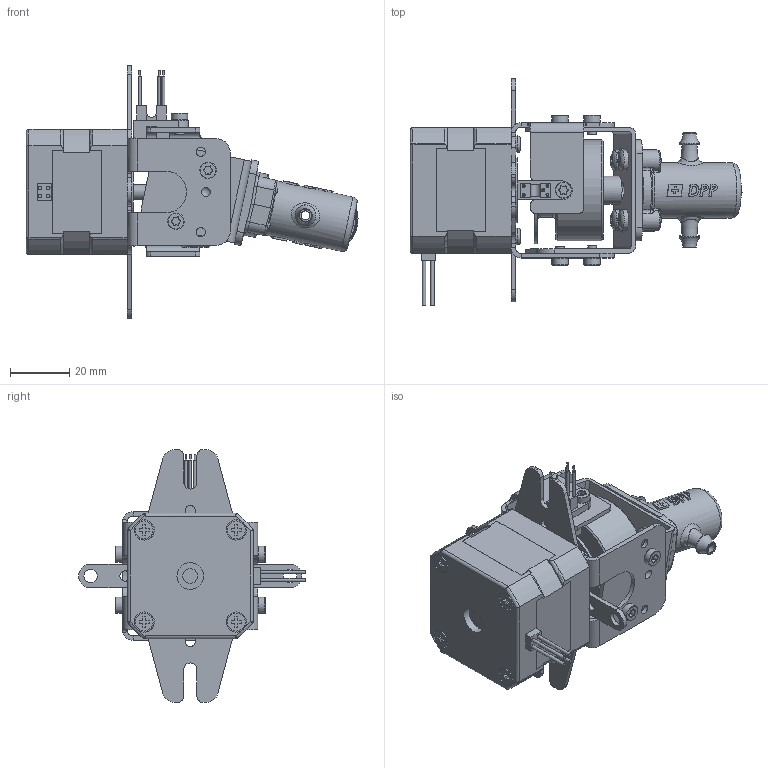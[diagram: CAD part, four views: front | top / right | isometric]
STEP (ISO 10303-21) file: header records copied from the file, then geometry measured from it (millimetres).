
FILE_DESCRIPTION (( 'STEP AP214' ), '1' );
FILE_NAME ('PD0023A4.STEP', '2017-03-06T17:46:20', ( '' ), ( '' ), 'SwSTEP 2.0', 'SolidWorks 2015', '' );
FILE_SCHEMA (( 'AUTOMOTIVE_DESIGN' ));
Length unit declared in the file: millimetre
Products named in the file (22): PD22-CP-1; PD22-DE-0; PD22-MO-0; PD22-SC-0_SC0111; PD22-OS-0; PD03-SC-0; PD22-SC-2_SC0104; PD22-MB-0_Standard; PD23-PP-3; PD22-SC-1_SC0112; PD0023A4; PD23-PA-4; PD22-PA-0; PD22-EA-1; PD22-DP-0; PD22-EL-0; PD23-CH-1A4; PD23-CH-0A4; Housing^PD23-CH-0A4; PD22-MB-1; PD22-MA-0; PD22-EA-0
Assembly tree (30 placements, depth 6):
  PD0023A4
    PD22-MA-0
      PD22-MB-0_Standard
      PD03-SC-0  x4
      PD22-OS-0
      PD22-SC-0_SC0111
      PD22-MO-0
      PD22-EA-0
        PD22-DE-0
        PD22-CP-1
    PD23-PP-3
      PD22-MB-1
      PD23-PA-4
        PD23-CH-1A4
          PD23-CH-0A4
            Housing^PD23-CH-0A4
        PD22-PA-0
          PD22-EA-1
            PD22-EL-0
            PD22-DP-0
      PD22-SC-1_SC0112  x4
    PD22-SC-2_SC0104  x4
Bounding box: 111.66 x 76.15 x 85 mm (x, y, z)
Volume: 97235.7 mm3; surface area: 44995 mm2
Topology: 22 solids, 22 shells, 1009 faces, 2517 edges, 1614 vertices
Faces by surface type: plane 442, cylinder 364, bspline 125, torus 38, cone 26, sphere 14
Full cylindrical faces by diameter (mm): 0.05 x2, 0.6 x5, 1 x5, 1.25 x4, 2.5 x10, 3 x7, 3.065 x2, 3.1 x4, 3.18 x1, 3.5 x12, 3.6 x4, 3.9 x4, 4.5 x2, 4.8 x2, 5 x3, 5.2 x1, 5.5 x9, 6 x4, 6.8 x4, 7 x6, 9 x1, 9.5 x1, 10.1 x1, 10.5 x1, 12 x2, 17 x1, 18 x1, 18.65 x1, 22 x1, 22.016 x1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
Entity records: 32447 total; most frequent: CARTESIAN_POINT 11853, ORIENTED_EDGE 4080, DIRECTION 3739, EDGE_CURVE 2040, VERTEX_POINT 1376, AXIS2_PLACEMENT_3D 1373, EDGE_LOOP 1160, VECTOR 993
